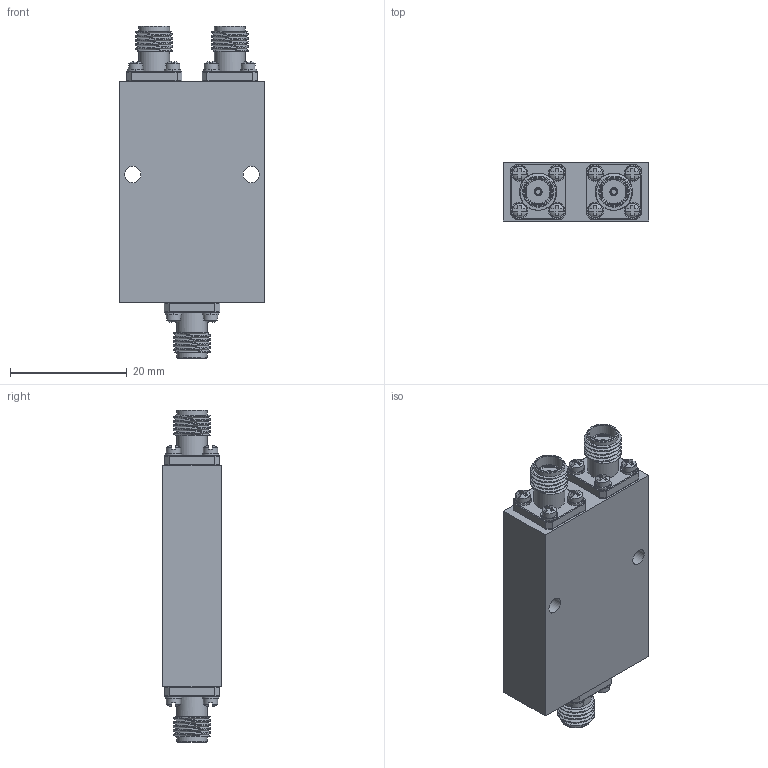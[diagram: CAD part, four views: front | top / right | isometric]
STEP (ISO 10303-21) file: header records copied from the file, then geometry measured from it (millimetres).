
FILE_DESCRIPTION (( 'STEP AP214' ), '1' );
FILE_NAME ('APD-2-2G8G-SFF-30W-SP.STEP', '2025-10-30T19:43:23', ( '' ), ( '' ), 'SwSTEP 2.0', 'SolidWorks 2024', '' );
FILE_SCHEMA (( 'AUTOMOTIVE_DESIGN' ));
Length unit declared in the file: inch
Products named in the file (1): APD-2-2G8G-SFF-30W-SP
Bounding box: 24.99 x 10.01 x 56.9 mm (x, y, z)
Surface area: 4734.8 mm2 (no closed solid volume)
Topology: 0 solids, 35 shells, 526 faces, 2179 edges, 1801 vertices
Faces by surface type: plane 384, cylinder 83, sphere 24, torus 21, cone 8, bspline 6
Full cylindrical faces by diameter (mm): 2.438 x12, 2.794 x2, 4.191 x3, 4.597 x3, 5.283 x6
Entity records: 32532 total; most frequent: CARTESIAN_POINT 10969, ORIENTED_EDGE 4058, DIRECTION 2885, EDGE_CURVE 2105, VERTEX_POINT 1782, VECTOR 1185, LINE 1185, AXIS2_PLACEMENT_3D 850
